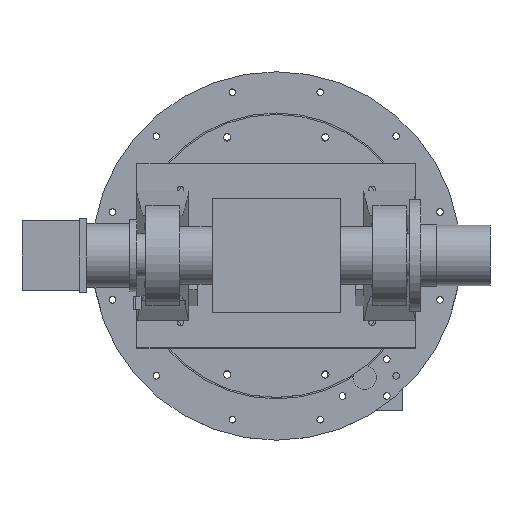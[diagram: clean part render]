
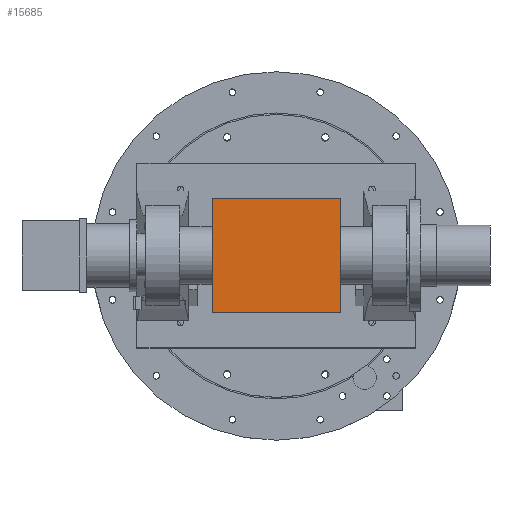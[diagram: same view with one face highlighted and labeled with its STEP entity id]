
A CAD part, top view. The second image highlights one B-rep face of the part: STEP entity #15685.
In plain terms, the highlighted planar face has unit normal (0, 0, 1).
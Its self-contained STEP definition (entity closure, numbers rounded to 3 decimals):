
#15461 = VERTEX_POINT('',#15462);
#15462 = CARTESIAN_POINT('',(-87.,-77.5,60.));
#15469 = PLANE('',#15470);
#15470 = AXIS2_PLACEMENT_3D('',#15471,#15472,#15473);
#15471 = CARTESIAN_POINT('',(-87.,-77.5,-60.));
#15472 = DIRECTION('',(1.,0.,0.));
#15473 = DIRECTION('',(0.,0.,1.));
#15481 = PLANE('',#15482);
#15482 = AXIS2_PLACEMENT_3D('',#15483,#15484,#15485);
#15483 = CARTESIAN_POINT('',(-87.,-77.5,-60.));
#15484 = DIRECTION('',(0.,1.,0.));
#15485 = DIRECTION('',(0.,0.,1.));
#15522 = VERTEX_POINT('',#15523);
#15523 = CARTESIAN_POINT('',(-87.,77.5,60.));
#15537 = PLANE('',#15538);
#15538 = AXIS2_PLACEMENT_3D('',#15539,#15540,#15541);
#15539 = CARTESIAN_POINT('',(-87.,77.5,-60.));
#15540 = DIRECTION('',(0.,1.,0.));
#15541 = DIRECTION('',(0.,0.,1.));
#15549 = EDGE_CURVE('',#15461,#15522,#15550,.T.);
#15550 = SURFACE_CURVE('',#15551,(#15555,#15562),.PCURVE_S1.);
#15551 = LINE('',#15552,#15553);
#15552 = CARTESIAN_POINT('',(-87.,-77.5,60.));
#15553 = VECTOR('',#15554,1.);
#15554 = DIRECTION('',(0.,1.,0.));
#15555 = PCURVE('',#15469,#15556);
#15556 = DEFINITIONAL_REPRESENTATION('',(#15557),#15561);
#15557 = LINE('',#15558,#15559);
#15558 = CARTESIAN_POINT('',(120.,0.));
#15559 = VECTOR('',#15560,1.);
#15560 = DIRECTION('',(0.,-1.));
#15561 = ( GEOMETRIC_REPRESENTATION_CONTEXT(2) 
PARAMETRIC_REPRESENTATION_CONTEXT() REPRESENTATION_CONTEXT('2D SPACE',''
  ) );
#15562 = PCURVE('',#15563,#15568);
#15563 = PLANE('',#15564);
#15564 = AXIS2_PLACEMENT_3D('',#15565,#15566,#15567);
#15565 = CARTESIAN_POINT('',(-87.,-77.5,60.));
#15566 = DIRECTION('',(0.,0.,1.));
#15567 = DIRECTION('',(1.,0.,0.));
#15568 = DEFINITIONAL_REPRESENTATION('',(#15569),#15573);
#15569 = LINE('',#15570,#15571);
#15570 = CARTESIAN_POINT('',(0.,0.));
#15571 = VECTOR('',#15572,1.);
#15572 = DIRECTION('',(0.,1.));
#15573 = ( GEOMETRIC_REPRESENTATION_CONTEXT(2) 
PARAMETRIC_REPRESENTATION_CONTEXT() REPRESENTATION_CONTEXT('2D SPACE',''
  ) );
#15637 = EDGE_CURVE('',#15461,#15638,#15640,.T.);
#15638 = VERTEX_POINT('',#15639);
#15639 = CARTESIAN_POINT('',(87.,-77.5,60.));
#15640 = SURFACE_CURVE('',#15641,(#15645,#15652),.PCURVE_S1.);
#15641 = LINE('',#15642,#15643);
#15642 = CARTESIAN_POINT('',(-87.,-77.5,60.));
#15643 = VECTOR('',#15644,1.);
#15644 = DIRECTION('',(1.,0.,0.));
#15645 = PCURVE('',#15481,#15646);
#15646 = DEFINITIONAL_REPRESENTATION('',(#15647),#15651);
#15647 = LINE('',#15648,#15649);
#15648 = CARTESIAN_POINT('',(120.,0.));
#15649 = VECTOR('',#15650,1.);
#15650 = DIRECTION('',(0.,1.));
#15651 = ( GEOMETRIC_REPRESENTATION_CONTEXT(2) 
PARAMETRIC_REPRESENTATION_CONTEXT() REPRESENTATION_CONTEXT('2D SPACE',''
  ) );
#15652 = PCURVE('',#15563,#15653);
#15653 = DEFINITIONAL_REPRESENTATION('',(#15654),#15658);
#15654 = LINE('',#15655,#15656);
#15655 = CARTESIAN_POINT('',(0.,0.));
#15656 = VECTOR('',#15657,1.);
#15657 = DIRECTION('',(1.,0.));
#15658 = ( GEOMETRIC_REPRESENTATION_CONTEXT(2) 
PARAMETRIC_REPRESENTATION_CONTEXT() REPRESENTATION_CONTEXT('2D SPACE',''
  ) );
#15674 = PLANE('',#15675);
#15675 = AXIS2_PLACEMENT_3D('',#15676,#15677,#15678);
#15676 = CARTESIAN_POINT('',(87.,-77.5,-60.));
#15677 = DIRECTION('',(1.,0.,0.));
#15678 = DIRECTION('',(0.,0.,1.));
#15685 = ADVANCED_FACE('',(#15686),#15563,.T.);
#15686 = FACE_BOUND('',#15687,.T.);
#15687 = EDGE_LOOP('',(#15688,#15689,#15690,#15713));
#15688 = ORIENTED_EDGE('',*,*,#15549,.F.);
#15689 = ORIENTED_EDGE('',*,*,#15637,.T.);
#15690 = ORIENTED_EDGE('',*,*,#15691,.T.);
#15691 = EDGE_CURVE('',#15638,#15692,#15694,.T.);
#15692 = VERTEX_POINT('',#15693);
#15693 = CARTESIAN_POINT('',(87.,77.5,60.));
#15694 = SURFACE_CURVE('',#15695,(#15699,#15706),.PCURVE_S1.);
#15695 = LINE('',#15696,#15697);
#15696 = CARTESIAN_POINT('',(87.,-77.5,60.));
#15697 = VECTOR('',#15698,1.);
#15698 = DIRECTION('',(0.,1.,0.));
#15699 = PCURVE('',#15563,#15700);
#15700 = DEFINITIONAL_REPRESENTATION('',(#15701),#15705);
#15701 = LINE('',#15702,#15703);
#15702 = CARTESIAN_POINT('',(174.,0.));
#15703 = VECTOR('',#15704,1.);
#15704 = DIRECTION('',(0.,1.));
#15705 = ( GEOMETRIC_REPRESENTATION_CONTEXT(2) 
PARAMETRIC_REPRESENTATION_CONTEXT() REPRESENTATION_CONTEXT('2D SPACE',''
  ) );
#15706 = PCURVE('',#15674,#15707);
#15707 = DEFINITIONAL_REPRESENTATION('',(#15708),#15712);
#15708 = LINE('',#15709,#15710);
#15709 = CARTESIAN_POINT('',(120.,0.));
#15710 = VECTOR('',#15711,1.);
#15711 = DIRECTION('',(0.,-1.));
#15712 = ( GEOMETRIC_REPRESENTATION_CONTEXT(2) 
PARAMETRIC_REPRESENTATION_CONTEXT() REPRESENTATION_CONTEXT('2D SPACE',''
  ) );
#15713 = ORIENTED_EDGE('',*,*,#15714,.F.);
#15714 = EDGE_CURVE('',#15522,#15692,#15715,.T.);
#15715 = SURFACE_CURVE('',#15716,(#15720,#15727),.PCURVE_S1.);
#15716 = LINE('',#15717,#15718);
#15717 = CARTESIAN_POINT('',(-87.,77.5,60.));
#15718 = VECTOR('',#15719,1.);
#15719 = DIRECTION('',(1.,0.,0.));
#15720 = PCURVE('',#15563,#15721);
#15721 = DEFINITIONAL_REPRESENTATION('',(#15722),#15726);
#15722 = LINE('',#15723,#15724);
#15723 = CARTESIAN_POINT('',(0.,155.));
#15724 = VECTOR('',#15725,1.);
#15725 = DIRECTION('',(1.,0.));
#15726 = ( GEOMETRIC_REPRESENTATION_CONTEXT(2) 
PARAMETRIC_REPRESENTATION_CONTEXT() REPRESENTATION_CONTEXT('2D SPACE',''
  ) );
#15727 = PCURVE('',#15537,#15728);
#15728 = DEFINITIONAL_REPRESENTATION('',(#15729),#15733);
#15729 = LINE('',#15730,#15731);
#15730 = CARTESIAN_POINT('',(120.,0.));
#15731 = VECTOR('',#15732,1.);
#15732 = DIRECTION('',(0.,1.));
#15733 = ( GEOMETRIC_REPRESENTATION_CONTEXT(2) 
PARAMETRIC_REPRESENTATION_CONTEXT() REPRESENTATION_CONTEXT('2D SPACE',''
  ) );
